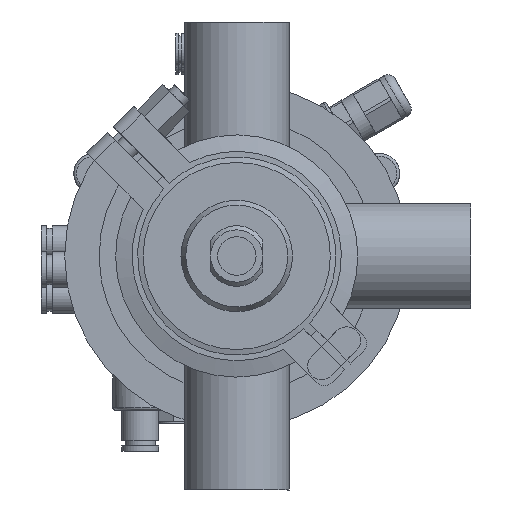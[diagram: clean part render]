
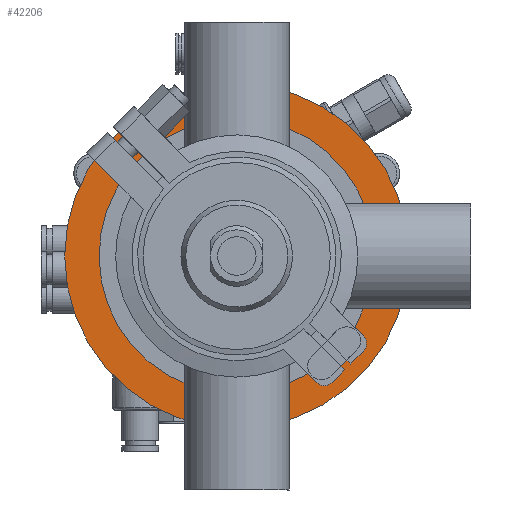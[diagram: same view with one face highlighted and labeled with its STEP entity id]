
A CAD part, front view. The second image highlights one B-rep face of the part: STEP entity #42206.
In plain terms, the highlighted planar face has unit normal (0, -1, 0).
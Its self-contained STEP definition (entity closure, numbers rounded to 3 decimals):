
#5666 = CIRCLE ( 'NONE', #21872, 62.5 ) ;
#8000 = EDGE_CURVE ( 'NONE', #37369, #37369, #11738, .T. ) ;
#8644 = AXIS2_PLACEMENT_3D ( 'NONE', #47876, #53223, #23478 ) ;
#11738 = CIRCLE ( 'NONE', #20835, 6.25 ) ;
#13288 = CARTESIAN_POINT ( 'NONE',  ( 0., 0., 54.25 ) ) ;
#17964 = ORIENTED_EDGE ( 'NONE', *, *, #8000, .F. ) ;
#19682 = DIRECTION ( 'NONE',  ( 0., -1., 0. ) ) ;
#20835 = AXIS2_PLACEMENT_3D ( 'NONE', #55649, #35692, #50593 ) ;
#21872 = AXIS2_PLACEMENT_3D ( 'NONE', #23528, #19682, #53598 ) ;
#23478 = DIRECTION ( 'NONE',  ( 0., 0., 1. ) ) ;
#23528 = CARTESIAN_POINT ( 'NONE',  ( 0., 0., 0. ) ) ;
#33159 = EDGE_LOOP ( 'NONE', ( #48308 ) ) ;
#33920 = FACE_BOUND ( 'NONE', #48681, .T. ) ;
#34162 = CARTESIAN_POINT ( 'NONE',  ( 0., 0., -62.5 ) ) ;
#35692 = DIRECTION ( 'NONE',  ( 0., -1., 0. ) ) ;
#37369 = VERTEX_POINT ( 'NONE', #13288 ) ;
#42206 = ADVANCED_FACE ( 'NONE', ( #33920, #56740 ), #52918, .F. ) ;
#47876 = CARTESIAN_POINT ( 'NONE',  ( 0., 0., 0. ) ) ;
#48308 = ORIENTED_EDGE ( 'NONE', *, *, #56286, .T. ) ;
#48681 = EDGE_LOOP ( 'NONE', ( #17964 ) ) ;
#50593 = DIRECTION ( 'NONE',  ( 0., 0., 1. ) ) ;
#52832 = VERTEX_POINT ( 'NONE', #34162 ) ;
#52918 = PLANE ( 'NONE',  #8644 ) ;
#53223 = DIRECTION ( 'NONE',  ( 0., 1., 0. ) ) ;
#53598 = DIRECTION ( 'NONE',  ( 0., 0., -1. ) ) ;
#55649 = CARTESIAN_POINT ( 'NONE',  ( 0., 0., 48. ) ) ;
#56286 = EDGE_CURVE ( 'NONE', #52832, #52832, #5666, .T. ) ;
#56740 = FACE_OUTER_BOUND ( 'NONE', #33159, .T. ) ;
